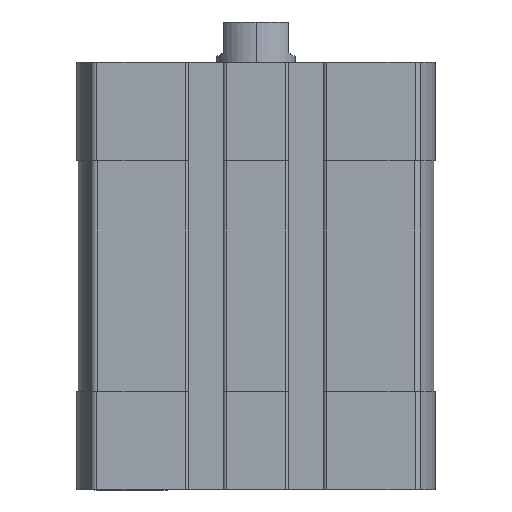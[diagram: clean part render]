
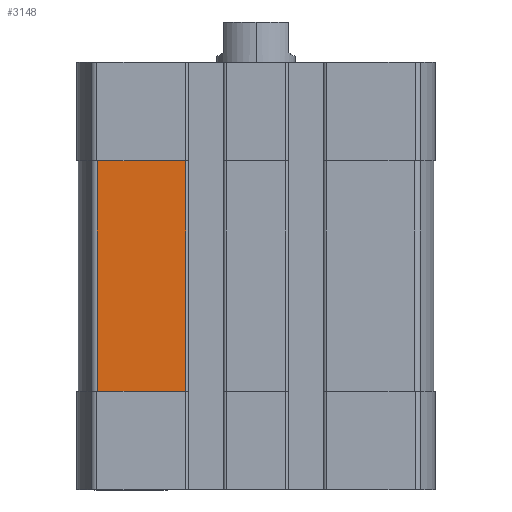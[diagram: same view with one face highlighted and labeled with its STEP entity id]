
A CAD part, left-side view. The second image highlights one B-rep face of the part: STEP entity #3148.
In plain terms, the highlighted planar face has unit normal (-1, 0, 0).
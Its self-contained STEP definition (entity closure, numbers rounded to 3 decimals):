
#123 = EDGE_CURVE ( 'NONE', #10743, #3021, #8527, .T. ) ;
#645 = CARTESIAN_POINT ( 'NONE',  ( -27., 24.093, -15. ) ) ;
#722 = CARTESIAN_POINT ( 'NONE',  ( -27., 10.7, -15. ) ) ;
#968 = AXIS2_PLACEMENT_3D ( 'NONE', #5173, #13607, #6370 ) ;
#980 = CARTESIAN_POINT ( 'NONE',  ( -27., 10.7, -50. ) ) ;
#3021 = VERTEX_POINT ( 'NONE', #6143 ) ;
#3148 = ADVANCED_FACE ( 'NONE', ( #3164 ), #4079, .T. ) ;
#3164 = FACE_OUTER_BOUND ( 'NONE', #8653, .T. ) ;
#3636 = CARTESIAN_POINT ( 'NONE',  ( -27., 24.093, -50. ) ) ;
#4079 = PLANE ( 'NONE',  #968 ) ;
#4382 = VECTOR ( 'NONE', #6252, 1000. ) ;
#5173 = CARTESIAN_POINT ( 'NONE',  ( -27., 24.093, -50. ) ) ;
#5499 = VERTEX_POINT ( 'NONE', #722 ) ;
#6143 = CARTESIAN_POINT ( 'NONE',  ( -27., 10.7, -50. ) ) ;
#6252 = DIRECTION ( 'NONE',  ( 0., 0., -1. ) ) ;
#6370 = DIRECTION ( 'NONE',  ( 0., 0., 1. ) ) ;
#6762 = DIRECTION ( 'NONE',  ( 0., -1., 0. ) ) ;
#6872 = CARTESIAN_POINT ( 'NONE',  ( -27., 24.093, -50. ) ) ;
#7923 = ORIENTED_EDGE ( 'NONE', *, *, #123, .T. ) ;
#7971 = EDGE_CURVE ( 'NONE', #3021, #5499, #15207, .T. ) ;
#8527 = LINE ( 'NONE', #6872, #11346 ) ;
#8653 = EDGE_LOOP ( 'NONE', ( #7923, #14050, #10819, #14182 ) ) ;
#9212 = VECTOR ( 'NONE', #9368, 1000. ) ;
#9368 = DIRECTION ( 'NONE',  ( 0., 0., 1. ) ) ;
#10270 = EDGE_CURVE ( 'NONE', #5499, #11021, #14402, .T. ) ;
#10743 = VERTEX_POINT ( 'NONE', #3636 ) ;
#10819 = ORIENTED_EDGE ( 'NONE', *, *, #10270, .T. ) ;
#11021 = VERTEX_POINT ( 'NONE', #645 ) ;
#11175 = LINE ( 'NONE', #12283, #4382 ) ;
#11246 = VECTOR ( 'NONE', #11834, 1000. ) ;
#11346 = VECTOR ( 'NONE', #6762, 1000. ) ;
#11834 = DIRECTION ( 'NONE',  ( 0., 1., 0. ) ) ;
#12283 = CARTESIAN_POINT ( 'NONE',  ( -27., 24.093, -50. ) ) ;
#13066 = CARTESIAN_POINT ( 'NONE',  ( -27., 0., -15. ) ) ;
#13607 = DIRECTION ( 'NONE',  ( -1., 0., 0. ) ) ;
#14050 = ORIENTED_EDGE ( 'NONE', *, *, #7971, .T. ) ;
#14182 = ORIENTED_EDGE ( 'NONE', *, *, #14349, .T. ) ;
#14349 = EDGE_CURVE ( 'NONE', #11021, #10743, #11175, .T. ) ;
#14402 = LINE ( 'NONE', #13066, #11246 ) ;
#15207 = LINE ( 'NONE', #980, #9212 ) ;
